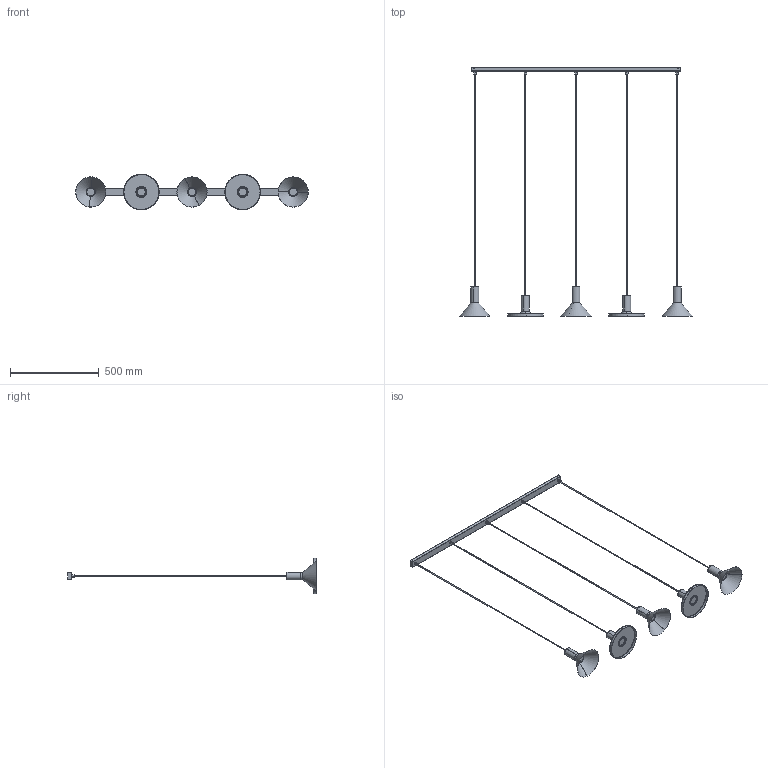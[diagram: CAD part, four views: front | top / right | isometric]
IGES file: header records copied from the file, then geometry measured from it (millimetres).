
Start section: SolidWorks IGES file using analytic representation for surfaces
Global section: file name: Z:\Modele 3D_WWW\_KOLEKCJE_WWW\HERMANOS\HERMANOS-V-8032-8033\HERMANOS-V-8032-8033.IGS; native system: SolidWorks 2020; preprocessor: SolidWorks 2020; author: gabriela.tworek; date: 210301.171137; units: millimetre
Bounding box: 1309.79 x 1400 x 199.98 mm (x, y, z)
Surface area: 878482.3 mm2 (no closed solid volume)
Topology: 0 solids, 0 shells, 568 faces, 10620 edges, 10620 vertices
Faces by surface type: revolution 296, bspline 272
